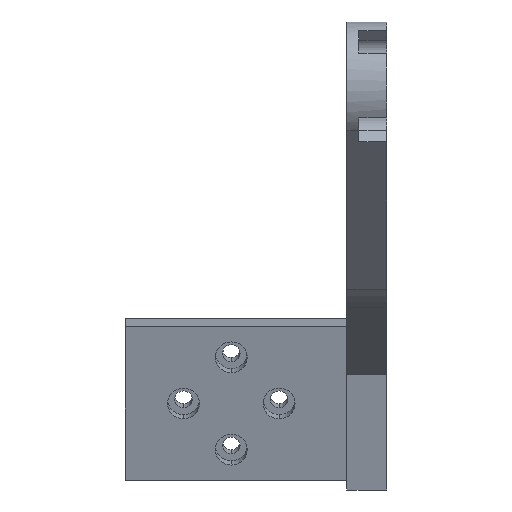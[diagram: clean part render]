
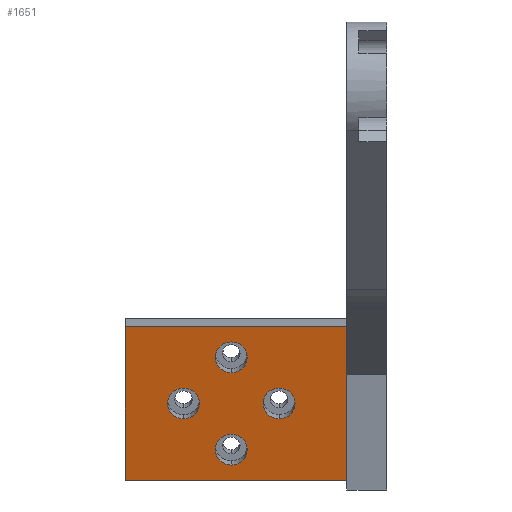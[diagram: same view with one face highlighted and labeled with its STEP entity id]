
A CAD part, left-side view. The second image highlights one B-rep face of the part: STEP entity #1651.
In plain terms, the highlighted planar face has unit normal (-0.966, 0, -0.259) as drawn and (-0.5, 0.866, 0) by its records, which use the part's own axes.
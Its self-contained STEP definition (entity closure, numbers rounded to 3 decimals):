
#2 = DIRECTION ( 'NONE',  ( -0.866, -0.5, 0. ) ) ;
#4 = CARTESIAN_POINT ( 'NONE',  ( 61.66, 8.464, -1.2 ) ) ;
#17 = EDGE_CURVE ( 'NONE', #1347, #742, #1573, .T. ) ;
#19 = EDGE_CURVE ( 'NONE', #532, #285, #156, .T. ) ;
#35 = VECTOR ( 'NONE', #1729, 1000. ) ;
#37 = FACE_BOUND ( 'NONE', #1164, .T. ) ;
#41 = EDGE_CURVE ( 'NONE', #1818, #1022, #632, .T. ) ;
#57 = DIRECTION ( 'NONE',  ( -0.866, -0.5, 0. ) ) ;
#88 = ORIENTED_EDGE ( 'NONE', *, *, #1293, .F. ) ;
#135 = CARTESIAN_POINT ( 'NONE',  ( 53., 3.464, -20.5 ) ) ;
#156 = CIRCLE ( 'NONE', #338, 2. ) ;
#163 = CARTESIAN_POINT ( 'NONE',  ( 49.536, 1.464, -14.5 ) ) ;
#196 = VERTEX_POINT ( 'NONE', #304 ) ;
#242 = ORIENTED_EDGE ( 'NONE', *, *, #19, .F. ) ;
#247 = LINE ( 'NONE', #714, #35 ) ;
#251 = EDGE_LOOP ( 'NONE', ( #88, #936 ) ) ;
#254 = VERTEX_POINT ( 'NONE', #1011 ) ;
#257 = DIRECTION ( 'NONE',  ( -0.5, 0.866, 0. ) ) ;
#278 = CARTESIAN_POINT ( 'NONE',  ( 54.732, 4.464, -20.5 ) ) ;
#285 = VERTEX_POINT ( 'NONE', #278 ) ;
#304 = CARTESIAN_POINT ( 'NONE',  ( 56.464, 5.464, -14.5 ) ) ;
#338 = AXIS2_PLACEMENT_3D ( 'NONE', #515, #1435, #57 ) ;
#344 = DIRECTION ( 'NONE',  ( -0.866, -0.5, 0. ) ) ;
#377 = DIRECTION ( 'NONE',  ( -0.866, -0.5, 0. ) ) ;
#421 = CARTESIAN_POINT ( 'NONE',  ( 53., 3.464, -8.5 ) ) ;
#460 = LINE ( 'NONE', #1073, #1100 ) ;
#461 = AXIS2_PLACEMENT_3D ( 'NONE', #780, #1269, #477 ) ;
#477 = DIRECTION ( 'NONE',  ( -0.866, -0.5, 0. ) ) ;
#515 = CARTESIAN_POINT ( 'NONE',  ( 53., 3.464, -20.5 ) ) ;
#532 = VERTEX_POINT ( 'NONE', #1196 ) ;
#533 = CARTESIAN_POINT ( 'NONE',  ( 53., 3.464, -8.5 ) ) ;
#535 = CARTESIAN_POINT ( 'NONE',  ( 44.34, -1.536, -29. ) ) ;
#589 = CIRCLE ( 'NONE', #1770, 2. ) ;
#598 = DIRECTION ( 'NONE',  ( -0.5, 0.866, 0. ) ) ;
#616 = CARTESIAN_POINT ( 'NONE',  ( 61.66, 8.464, -1.2 ) ) ;
#624 = CIRCLE ( 'NONE', #1743, 2. ) ;
#632 = CIRCLE ( 'NONE', #1501, 2. ) ;
#637 = ORIENTED_EDGE ( 'NONE', *, *, #41, .F. ) ;
#652 = DIRECTION ( 'NONE',  ( -0.5, 0.866, 0. ) ) ;
#659 = VECTOR ( 'NONE', #815, 1000. ) ;
#669 = CARTESIAN_POINT ( 'NONE',  ( 44.34, -1.536, -1.2 ) ) ;
#676 = CIRCLE ( 'NONE', #461, 2. ) ;
#683 = CARTESIAN_POINT ( 'NONE',  ( 54.732, 4.464, -8.5 ) ) ;
#700 = EDGE_CURVE ( 'NONE', #1347, #850, #247, .T. ) ;
#707 = AXIS2_PLACEMENT_3D ( 'NONE', #616, #1699, #344 ) ;
#714 = CARTESIAN_POINT ( 'NONE',  ( 61.66, 8.464, -1.2 ) ) ;
#742 = VERTEX_POINT ( 'NONE', #535 ) ;
#754 = EDGE_CURVE ( 'NONE', #742, #254, #460, .T. ) ;
#770 = DIRECTION ( 'NONE',  ( -0.866, -0.5, 0. ) ) ;
#773 = VERTEX_POINT ( 'NONE', #163 ) ;
#776 = AXIS2_PLACEMENT_3D ( 'NONE', #421, #598, #1071 ) ;
#780 = CARTESIAN_POINT ( 'NONE',  ( 47.804, 0.464, -14.5 ) ) ;
#794 = ORIENTED_EDGE ( 'NONE', *, *, #700, .T. ) ;
#808 = FACE_OUTER_BOUND ( 'NONE', #988, .T. ) ;
#815 = DIRECTION ( 'NONE',  ( 0., 0., -1. ) ) ;
#850 = VERTEX_POINT ( 'NONE', #4 ) ;
#852 = CARTESIAN_POINT ( 'NONE',  ( 46.072, -0.536, -14.5 ) ) ;
#936 = ORIENTED_EDGE ( 'NONE', *, *, #1917, .F. ) ;
#938 = DIRECTION ( 'NONE',  ( 0.866, 0.5, 0. ) ) ;
#942 = CIRCLE ( 'NONE', #1449, 2. ) ;
#988 = EDGE_LOOP ( 'NONE', ( #1597, #1910, #1545, #794 ) ) ;
#999 = CARTESIAN_POINT ( 'NONE',  ( 61.66, 8.464, -1.2 ) ) ;
#1011 = CARTESIAN_POINT ( 'NONE',  ( 61.66, 8.464, -29. ) ) ;
#1022 = VERTEX_POINT ( 'NONE', #1286 ) ;
#1026 = VERTEX_POINT ( 'NONE', #852 ) ;
#1044 = EDGE_LOOP ( 'NONE', ( #1498, #637 ) ) ;
#1071 = DIRECTION ( 'NONE',  ( -0.866, -0.5, 0. ) ) ;
#1073 = CARTESIAN_POINT ( 'NONE',  ( 48.67, 0.964, -29. ) ) ;
#1079 = VERTEX_POINT ( 'NONE', #1625 ) ;
#1080 = CARTESIAN_POINT ( 'NONE',  ( 58.196, 6.464, -14.5 ) ) ;
#1100 = VECTOR ( 'NONE', #938, 1000. ) ;
#1107 = CARTESIAN_POINT ( 'NONE',  ( 58.196, 6.464, -14.5 ) ) ;
#1125 = EDGE_CURVE ( 'NONE', #196, #1079, #1354, .T. ) ;
#1134 = LINE ( 'NONE', #999, #1445 ) ;
#1164 = EDGE_LOOP ( 'NONE', ( #242, #1566 ) ) ;
#1168 = EDGE_CURVE ( 'NONE', #285, #532, #624, .T. ) ;
#1173 = EDGE_CURVE ( 'NONE', #1022, #1818, #1740, .T. ) ;
#1196 = CARTESIAN_POINT ( 'NONE',  ( 51.268, 2.464, -20.5 ) ) ;
#1269 = DIRECTION ( 'NONE',  ( -0.5, 0.866, 0. ) ) ;
#1273 = DIRECTION ( 'NONE',  ( -0.5, 0.866, 0. ) ) ;
#1286 = CARTESIAN_POINT ( 'NONE',  ( 51.268, 2.464, -8.5 ) ) ;
#1293 = EDGE_CURVE ( 'NONE', #1026, #773, #676, .T. ) ;
#1335 = DIRECTION ( 'NONE',  ( -0.866, -0.5, 0. ) ) ;
#1347 = VERTEX_POINT ( 'NONE', #669 ) ;
#1354 = CIRCLE ( 'NONE', #1553, 2. ) ;
#1384 = EDGE_CURVE ( 'NONE', #850, #254, #1134, .T. ) ;
#1413 = FACE_BOUND ( 'NONE', #1765, .T. ) ;
#1435 = DIRECTION ( 'NONE',  ( -0.5, 0.866, 0. ) ) ;
#1445 = VECTOR ( 'NONE', #1466, 1000. ) ;
#1449 = AXIS2_PLACEMENT_3D ( 'NONE', #1967, #257, #1978 ) ;
#1466 = DIRECTION ( 'NONE',  ( 0., 0., -1. ) ) ;
#1498 = ORIENTED_EDGE ( 'NONE', *, *, #1173, .F. ) ;
#1501 = AXIS2_PLACEMENT_3D ( 'NONE', #533, #1273, #377 ) ;
#1524 = ORIENTED_EDGE ( 'NONE', *, *, #1649, .F. ) ;
#1545 = ORIENTED_EDGE ( 'NONE', *, *, #17, .F. ) ;
#1553 = AXIS2_PLACEMENT_3D ( 'NONE', #1080, #1817, #2 ) ;
#1566 = ORIENTED_EDGE ( 'NONE', *, *, #1168, .F. ) ;
#1573 = LINE ( 'NONE', #1589, #659 ) ;
#1589 = CARTESIAN_POINT ( 'NONE',  ( 44.34, -1.536, -1.2 ) ) ;
#1597 = ORIENTED_EDGE ( 'NONE', *, *, #1384, .T. ) ;
#1625 = CARTESIAN_POINT ( 'NONE',  ( 59.928, 7.464, -14.5 ) ) ;
#1649 = EDGE_CURVE ( 'NONE', #1079, #196, #589, .T. ) ;
#1651 = ADVANCED_FACE ( 'NONE', ( #1876, #37, #1413, #1857, #808 ), #1851, .T. ) ;
#1695 = ORIENTED_EDGE ( 'NONE', *, *, #1125, .F. ) ;
#1699 = DIRECTION ( 'NONE',  ( -0.5, 0.866, 0. ) ) ;
#1729 = DIRECTION ( 'NONE',  ( 0.866, 0.5, 0. ) ) ;
#1740 = CIRCLE ( 'NONE', #776, 2. ) ;
#1743 = AXIS2_PLACEMENT_3D ( 'NONE', #135, #1958, #1335 ) ;
#1765 = EDGE_LOOP ( 'NONE', ( #1695, #1524 ) ) ;
#1770 = AXIS2_PLACEMENT_3D ( 'NONE', #1107, #652, #770 ) ;
#1817 = DIRECTION ( 'NONE',  ( -0.5, 0.866, 0. ) ) ;
#1818 = VERTEX_POINT ( 'NONE', #683 ) ;
#1851 = PLANE ( 'NONE',  #707 ) ;
#1857 = FACE_BOUND ( 'NONE', #1044, .T. ) ;
#1876 = FACE_BOUND ( 'NONE', #251, .T. ) ;
#1910 = ORIENTED_EDGE ( 'NONE', *, *, #754, .F. ) ;
#1917 = EDGE_CURVE ( 'NONE', #773, #1026, #942, .T. ) ;
#1958 = DIRECTION ( 'NONE',  ( -0.5, 0.866, 0. ) ) ;
#1967 = CARTESIAN_POINT ( 'NONE',  ( 47.804, 0.464, -14.5 ) ) ;
#1978 = DIRECTION ( 'NONE',  ( -0.866, -0.5, 0. ) ) ;
